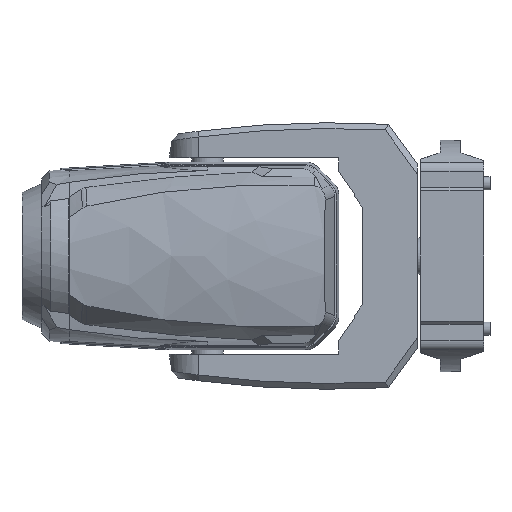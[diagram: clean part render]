
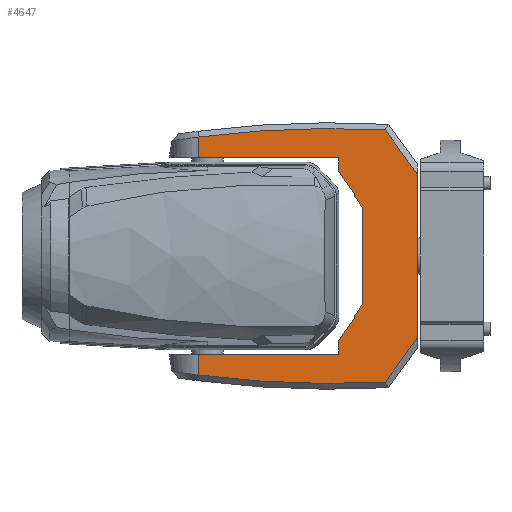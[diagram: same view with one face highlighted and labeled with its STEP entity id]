
A CAD part, left-side view. The second image highlights one B-rep face of the part: STEP entity #4647.
In plain terms, the highlighted planar face has unit normal (-1, 0, 0) as drawn and (0, -1, 0) by its records, which use the part's own axes.
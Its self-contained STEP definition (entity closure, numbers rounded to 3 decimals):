
#503=CIRCLE('',#5035,1442.);
#504=CIRCLE('',#5036,1442.);
#1074=ORIENTED_EDGE('',*,*,#2224,.T.);
#1075=ORIENTED_EDGE('',*,*,#2225,.T.);
#1076=ORIENTED_EDGE('',*,*,#2226,.F.);
#1077=ORIENTED_EDGE('',*,*,#2218,.F.);
#1078=ORIENTED_EDGE('',*,*,#2227,.F.);
#1079=ORIENTED_EDGE('',*,*,#2228,.F.);
#1080=ORIENTED_EDGE('',*,*,#2229,.F.);
#1081=ORIENTED_EDGE('',*,*,#2230,.F.);
#1082=ORIENTED_EDGE('',*,*,#2231,.F.);
#1083=ORIENTED_EDGE('',*,*,#2232,.F.);
#1084=ORIENTED_EDGE('',*,*,#2233,.F.);
#1085=ORIENTED_EDGE('',*,*,#2234,.F.);
#1086=ORIENTED_EDGE('',*,*,#2235,.F.);
#1087=ORIENTED_EDGE('',*,*,#2209,.F.);
#1088=ORIENTED_EDGE('',*,*,#2236,.F.);
#1089=ORIENTED_EDGE('',*,*,#2237,.T.);
#1090=ORIENTED_EDGE('',*,*,#2238,.T.);
#1091=ORIENTED_EDGE('',*,*,#2239,.F.);
#1092=ORIENTED_EDGE('',*,*,#2240,.F.);
#1093=ORIENTED_EDGE('',*,*,#2241,.F.);
#2209=EDGE_CURVE('',#2835,#2836,#3309,.T.);
#2218=EDGE_CURVE('',#2844,#2841,#3314,.T.);
#2224=EDGE_CURVE('',#2849,#2850,#3316,.T.);
#2225=EDGE_CURVE('',#2850,#2851,#503,.F.);
#2226=EDGE_CURVE('',#2841,#2851,#3317,.T.);
#2227=EDGE_CURVE('',#2852,#2844,#3318,.T.);
#2228=EDGE_CURVE('',#2853,#2852,#3319,.T.);
#2229=EDGE_CURVE('',#2854,#2853,#3320,.T.);
#2230=EDGE_CURVE('',#2855,#2854,#3321,.T.);
#2231=EDGE_CURVE('',#2856,#2855,#3322,.T.);
#2232=EDGE_CURVE('',#2857,#2856,#3323,.T.);
#2233=EDGE_CURVE('',#2858,#2857,#3324,.T.);
#2234=EDGE_CURVE('',#2859,#2858,#3325,.T.);
#2235=EDGE_CURVE('',#2836,#2859,#3326,.T.);
#2236=EDGE_CURVE('',#2860,#2835,#3327,.T.);
#2237=EDGE_CURVE('',#2860,#2861,#504,.F.);
#2238=EDGE_CURVE('',#2861,#2862,#3328,.T.);
#2239=EDGE_CURVE('',#2863,#2862,#3329,.T.);
#2240=EDGE_CURVE('',#2864,#2863,#3330,.T.);
#2241=EDGE_CURVE('',#2849,#2864,#3331,.T.);
#2835=VERTEX_POINT('',#6724);
#2836=VERTEX_POINT('',#6726);
#2841=VERTEX_POINT('',#6737);
#2844=VERTEX_POINT('',#6743);
#2849=VERTEX_POINT('',#6763);
#2850=VERTEX_POINT('',#6764);
#2851=VERTEX_POINT('',#6766);
#2852=VERTEX_POINT('',#6769);
#2853=VERTEX_POINT('',#6771);
#2854=VERTEX_POINT('',#6773);
#2855=VERTEX_POINT('',#6775);
#2856=VERTEX_POINT('',#6777);
#2857=VERTEX_POINT('',#6779);
#2858=VERTEX_POINT('',#6781);
#2859=VERTEX_POINT('',#6783);
#2860=VERTEX_POINT('',#6786);
#2861=VERTEX_POINT('',#6788);
#2862=VERTEX_POINT('',#6790);
#2863=VERTEX_POINT('',#6792);
#2864=VERTEX_POINT('',#6794);
#3309=LINE('',#6725,#3633);
#3314=LINE('',#6744,#3638);
#3316=LINE('',#6762,#3640);
#3317=LINE('',#6767,#3641);
#3318=LINE('',#6768,#3642);
#3319=LINE('',#6770,#3643);
#3320=LINE('',#6772,#3644);
#3321=LINE('',#6774,#3645);
#3322=LINE('',#6776,#3646);
#3323=LINE('',#6778,#3647);
#3324=LINE('',#6780,#3648);
#3325=LINE('',#6782,#3649);
#3326=LINE('',#6784,#3650);
#3327=LINE('',#6785,#3651);
#3328=LINE('',#6789,#3652);
#3329=LINE('',#6791,#3653);
#3330=LINE('',#6793,#3654);
#3331=LINE('',#6795,#3655);
#3633=VECTOR('',#5721,1000.);
#3638=VECTOR('',#5736,1000.);
#3640=VECTOR('',#5746,1000.);
#3641=VECTOR('',#5749,1000.);
#3642=VECTOR('',#5750,1000.);
#3643=VECTOR('',#5751,1000.);
#3644=VECTOR('',#5752,1000.);
#3645=VECTOR('',#5753,1000.);
#3646=VECTOR('',#5754,1000.);
#3647=VECTOR('',#5755,1000.);
#3648=VECTOR('',#5756,1000.);
#3649=VECTOR('',#5757,1000.);
#3650=VECTOR('',#5758,1000.);
#3651=VECTOR('',#5759,1000.);
#3652=VECTOR('',#5762,1000.);
#3653=VECTOR('',#5763,1000.);
#3654=VECTOR('',#5764,1000.);
#3655=VECTOR('',#5765,1000.);
#3898=EDGE_LOOP('',(#1074,#1075,#1076,#1077,#1078,#1079,#1080,#1081,#1082,
#1083,#1084,#1085,#1086,#1087,#1088,#1089,#1090,#1091,#1092,#1093));
#4212=FACE_BOUND('',#3898,.T.);
#4476=PLANE('',#5034);
#4647=ADVANCED_FACE('',(#4212),#4476,.F.);
#5034=AXIS2_PLACEMENT_3D('',#6761,#5744,#5745);
#5035=AXIS2_PLACEMENT_3D('',#6765,#5747,#5748);
#5036=AXIS2_PLACEMENT_3D('',#6787,#5760,#5761);
#5721=DIRECTION('',(0.,0.,-1.));
#5736=DIRECTION('',(0.,0.,1.));
#5744=DIRECTION('',(0.,1.,0.));
#5745=DIRECTION('',(0.,0.,1.));
#5746=DIRECTION('',(0.809,0.,0.588));
#5747=DIRECTION('',(0.,1.,0.));
#5748=DIRECTION('',(0.,0.,1.));
#5749=DIRECTION('',(1.,0.,0.));
#5750=DIRECTION('',(1.,0.,0.));
#5751=DIRECTION('',(0.819,0.,0.574));
#5752=DIRECTION('',(1.,0.,0.));
#5753=DIRECTION('',(0.819,0.,0.574));
#5754=DIRECTION('',(1.,0.,0.));
#5755=DIRECTION('',(0.819,0.,-0.574));
#5756=DIRECTION('',(1.,0.,0.));
#5757=DIRECTION('',(0.819,0.,-0.574));
#5758=DIRECTION('',(1.,0.,0.));
#5759=DIRECTION('',(1.,0.,0.));
#5760=DIRECTION('',(0.,1.,0.));
#5761=DIRECTION('',(0.,0.,1.));
#5762=DIRECTION('',(0.809,0.,-0.588));
#5763=DIRECTION('',(-0.999,0.,0.035));
#5764=DIRECTION('',(-1.,0.,0.));
#5765=DIRECTION('',(-0.999,0.,-0.035));
#6724=CARTESIAN_POINT('',(-136.,-51.7,304.144));
#6725=CARTESIAN_POINT('',(-136.,-51.7,344.8));
#6726=CARTESIAN_POINT('',(-136.,-51.7,109.9));
#6737=CARTESIAN_POINT('',(136.,-51.7,304.144));
#6743=CARTESIAN_POINT('',(136.,-51.7,109.9));
#6744=CARTESIAN_POINT('',(136.,-51.7,109.9));
#6761=CARTESIAN_POINT('',(-1265.371,-51.7,120.19));
#6762=CARTESIAN_POINT('',(177.762,-51.7,47.472));
#6763=CARTESIAN_POINT('',(113.302,-51.7,0.639));
#6764=CARTESIAN_POINT('',(174.679,-51.7,45.232));
#6765=CARTESIAN_POINT('',(-1265.371,-51.7,120.19));
#6766=CARTESIAN_POINT('',(164.852,-51.7,304.144));
#6767=CARTESIAN_POINT('',(-200.,-51.7,304.144));
#6768=CARTESIAN_POINT('',(117.193,-51.7,109.9));
#6769=CARTESIAN_POINT('',(117.193,-51.7,109.9));
#6770=CARTESIAN_POINT('',(86.488,-51.7,88.4));
#6771=CARTESIAN_POINT('',(86.488,-51.7,88.4));
#6772=CARTESIAN_POINT('',(83.488,-51.7,88.4));
#6773=CARTESIAN_POINT('',(83.488,-51.7,88.4));
#6774=CARTESIAN_POINT('',(66.35,-51.7,76.4));
#6775=CARTESIAN_POINT('',(66.35,-51.7,76.4));
#6776=CARTESIAN_POINT('',(-66.35,-51.7,76.4));
#6777=CARTESIAN_POINT('',(-66.35,-51.7,76.4));
#6778=CARTESIAN_POINT('',(-83.488,-51.7,88.4));
#6779=CARTESIAN_POINT('',(-83.488,-51.7,88.4));
#6780=CARTESIAN_POINT('',(-86.488,-51.7,88.4));
#6781=CARTESIAN_POINT('',(-86.488,-51.7,88.4));
#6782=CARTESIAN_POINT('',(-117.193,-51.7,109.9));
#6783=CARTESIAN_POINT('',(-117.193,-51.7,109.9));
#6784=CARTESIAN_POINT('',(-136.,-51.7,109.9));
#6785=CARTESIAN_POINT('',(-200.,-51.7,304.144));
#6786=CARTESIAN_POINT('',(-164.851,-51.698,304.153));
#6787=CARTESIAN_POINT('',(1265.371,-51.7,120.19));
#6788=CARTESIAN_POINT('',(-174.679,-51.7,45.232));
#6789=CARTESIAN_POINT('',(-122.898,-51.7,7.611));
#6790=CARTESIAN_POINT('',(-113.302,-51.7,0.639));
#6791=CARTESIAN_POINT('',(-95.,-51.7,0.));
#6792=CARTESIAN_POINT('',(-95.,-51.7,0.));
#6793=CARTESIAN_POINT('',(-95.,-51.7,0.));
#6794=CARTESIAN_POINT('',(95.,-51.7,0.));
#6795=CARTESIAN_POINT('',(95.,-51.7,0.));
